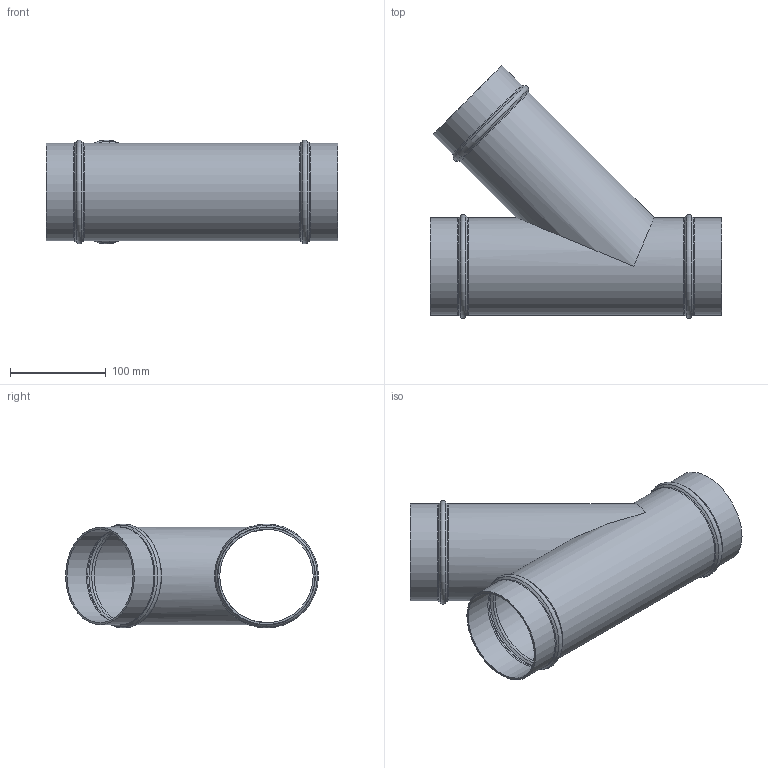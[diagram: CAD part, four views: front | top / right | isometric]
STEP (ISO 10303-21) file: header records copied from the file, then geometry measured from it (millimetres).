
FILE_DESCRIPTION(/* description */ (''),/* implementation_level */ '2;1');
FILE_NAME(/* name */ '2016 8009 00.stp',/* time_stamp */ '2025-07-25T11:37:45+08:00',/* author */ (''),/* organization */ (''),/* preprocessor_version */ 'ST-DEVELOPER v11',/* originating_system */ 'SIEMENS PLM Software NX 7.5',/* authorisation */ '');
FILE_SCHEMA (('CONFIG_CONTROL_DESIGN'));
Length unit declared in the file: millimetre
Products named in the file (1): Admi7CF9xr8w
Bounding box: 305 x 264.16 x 108.58 mm (x, y, z)
Volume: 294228 mm3; surface area: 296090.3 mm2
Topology: 1 solids, 1 shells, 43 faces, 90 edges, 48 vertices
Faces by surface type: torus 18, cone 12, cylinder 10, plane 3
Full cylindrical faces by diameter (mm): 97.6 x5, 101.6 x5
Entity records: 988 total; most frequent: DIRECTION 180, CARTESIAN_POINT 136, ORIENTED_EDGE 92, AXIS2_PLACEMENT_3D 90, FACE_BOUND 88, EDGE_LOOP 88, VERTEX_POINT 46, EDGE_CURVE 46
